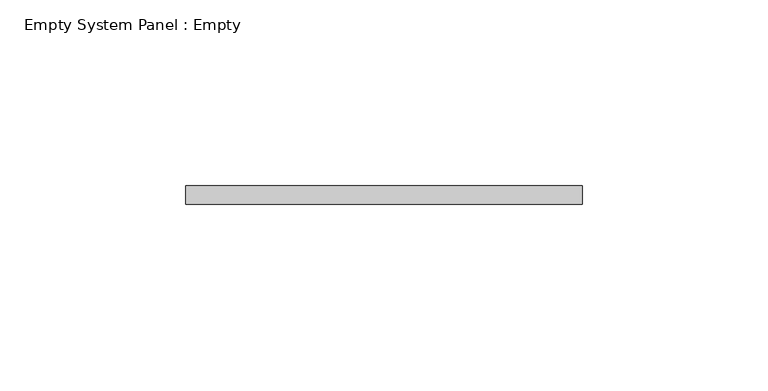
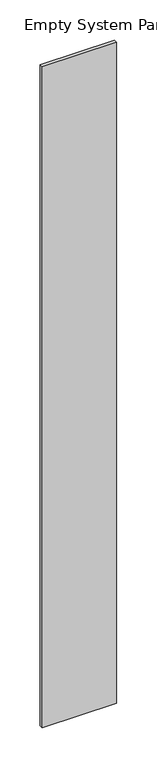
"""IFC4 building model written with IfcOpenShell, lengths in millimetres: plate geometry, Empty System Panel : Empty."""

from ifc_helpers import new_model, si_unit, origin, origin_with_axes, place, context, project, spatial, polyline, outline, extrude, source, transform, mapped, element, save


def empty_system_panel_empty_5f038340(model_context):
    return source(origin(), model_context, "Body", "SweptSolid", [
        extrude(outline(polyline([(53.3062956, 97.5), (-53.3062956, 97.5), (-53.3062956, 102.5), (53.3062956, 102.5), (53.3062956, 97.5)])), origin_with_axes(), (0.0, 0.0, 1.0), 1000.0),
    ])


if __name__ == "__main__":
    model = new_model("IFC4")
    model_context = context("Model", 3, world=origin())
    ifc_project = project(units=[si_unit("LENGTHUNIT", "METRE", prefix="MILLI")], contexts=[model_context])
    site = spatial("IfcSite", under=ifc_project)
    building = spatial("IfcBuilding", under=site)
    placement = place(None, origin())
    empty_system_panel_empty_shape = empty_system_panel_empty_5f038340(model_context)
    element("IfcPlate", 1, ObjectType="Empty System Panel : Empty", at=placement, inside=building, context=model_context, shape_type="MappedRepresentation", body=[
        mapped(empty_system_panel_empty_shape, transform((0.0, 0.0, 0.0), x_axis=(1.0, 0.0, 0.0), y_axis=(0.0, 1.0, 0.0), z_axis=(0.0, 0.0, 1.0))),
    ])
    save(model, "model.ifc")
